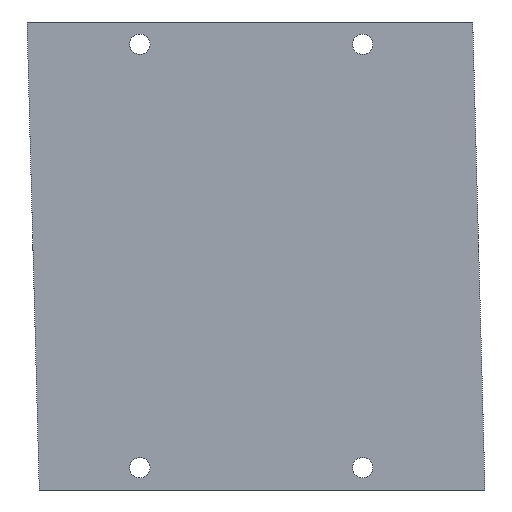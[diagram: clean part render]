
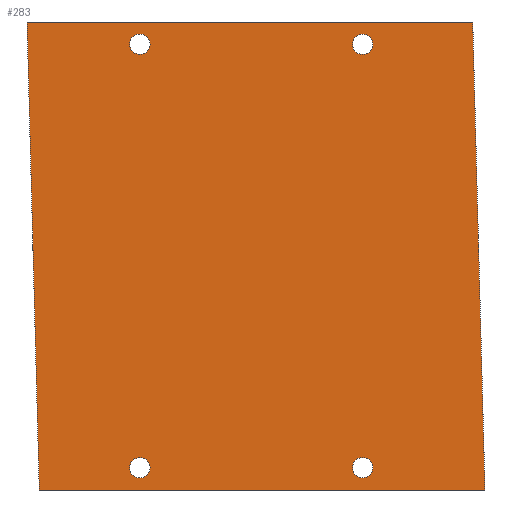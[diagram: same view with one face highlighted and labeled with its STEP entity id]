
A CAD part, front view. The second image highlights one B-rep face of the part: STEP entity #283.
In plain terms, the highlighted planar face has unit normal (0, -1, 0).
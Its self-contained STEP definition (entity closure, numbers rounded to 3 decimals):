
#12 = CARTESIAN_POINT ( 'NONE',  ( 60., 0., 63. ) ) ;
#27 = VERTEX_POINT ( 'NONE', #440 ) ;
#33 = DIRECTION ( 'NONE',  ( 0., 0., 1. ) ) ;
#36 = ORIENTED_EDGE ( 'NONE', *, *, #161, .F. ) ;
#37 = ORIENTED_EDGE ( 'NONE', *, *, #80, .T. ) ;
#41 = FACE_BOUND ( 'NONE', #158, .T. ) ;
#44 = ORIENTED_EDGE ( 'NONE', *, *, #444, .T. ) ;
#46 = AXIS2_PLACEMENT_3D ( 'NONE', #313, #392, #130 ) ;
#54 = EDGE_LOOP ( 'NONE', ( #44, #790 ) ) ;
#67 = DIRECTION ( 'NONE',  ( 0., 1., 0. ) ) ;
#73 = VERTEX_POINT ( 'NONE', #386 ) ;
#78 = CARTESIAN_POINT ( 'NONE',  ( -56.7, 0., -63. ) ) ;
#80 = EDGE_CURVE ( 'NONE', #557, #196, #254, .T. ) ;
#81 = DIRECTION ( 'NONE',  ( 0., 0., -1. ) ) ;
#84 = CIRCLE ( 'NONE', #586, 2.75 ) ;
#106 = AXIS2_PLACEMENT_3D ( 'NONE', #755, #229, #810 ) ;
#121 = EDGE_LOOP ( 'NONE', ( #37, #750 ) ) ;
#130 = DIRECTION ( 'NONE',  ( 0., 0., 1. ) ) ;
#133 = CARTESIAN_POINT ( 'NONE',  ( -29.63, 0., 57. ) ) ;
#158 = EDGE_LOOP ( 'NONE', ( #230, #231 ) ) ;
#161 = EDGE_CURVE ( 'NONE', #791, #712, #651, .T. ) ;
#173 = EDGE_CURVE ( 'NONE', #73, #640, #242, .T. ) ;
#182 = AXIS2_PLACEMENT_3D ( 'NONE', #199, #645, #461 ) ;
#184 = FACE_OUTER_BOUND ( 'NONE', #418, .T. ) ;
#188 = CARTESIAN_POINT ( 'NONE',  ( -29.63, 0., -59.75 ) ) ;
#196 = VERTEX_POINT ( 'NONE', #642 ) ;
#197 = LINE ( 'NONE', #351, #559 ) ;
#199 = CARTESIAN_POINT ( 'NONE',  ( -29.63, 0., -57. ) ) ;
#201 = EDGE_CURVE ( 'NONE', #27, #297, #84, .T. ) ;
#204 = VERTEX_POINT ( 'NONE', #12 ) ;
#206 = AXIS2_PLACEMENT_3D ( 'NONE', #713, #259, #81 ) ;
#207 = CARTESIAN_POINT ( 'NONE',  ( -29.63, 0., -57. ) ) ;
#218 = CARTESIAN_POINT ( 'NONE',  ( 30.37, 0., 59.75 ) ) ;
#228 = EDGE_CURVE ( 'NONE', #744, #368, #294, .T. ) ;
#229 = DIRECTION ( 'NONE',  ( 0., 1., 0. ) ) ;
#230 = ORIENTED_EDGE ( 'NONE', *, *, #740, .T. ) ;
#231 = ORIENTED_EDGE ( 'NONE', *, *, #173, .T. ) ;
#239 = EDGE_CURVE ( 'NONE', #408, #204, #397, .T. ) ;
#242 = CIRCLE ( 'NONE', #532, 2.75 ) ;
#251 = DIRECTION ( 'NONE',  ( 0., 0., 1. ) ) ;
#252 = CARTESIAN_POINT ( 'NONE',  ( -29.63, 0., 57. ) ) ;
#254 = CIRCLE ( 'NONE', #46, 2.75 ) ;
#256 = ORIENTED_EDGE ( 'NONE', *, *, #201, .T. ) ;
#259 = DIRECTION ( 'NONE',  ( 0., -1., 0. ) ) ;
#261 = CARTESIAN_POINT ( 'NONE',  ( 30.37, 0., -57. ) ) ;
#274 = CARTESIAN_POINT ( 'NONE',  ( -29.63, 0., -54.25 ) ) ;
#275 = VECTOR ( 'NONE', #320, 1000. ) ;
#283 = ADVANCED_FACE ( 'NONE', ( #725, #473, #601, #41, #184 ), #647, .T. ) ;
#284 = AXIS2_PLACEMENT_3D ( 'NONE', #207, #406, #33 ) ;
#294 = CIRCLE ( 'NONE', #182, 2.75 ) ;
#297 = VERTEX_POINT ( 'NONE', #777 ) ;
#313 = CARTESIAN_POINT ( 'NONE',  ( 30.37, 0., 57. ) ) ;
#317 = ORIENTED_EDGE ( 'NONE', *, *, #804, .F. ) ;
#320 = DIRECTION ( 'NONE',  ( 1., 0., 0. ) ) ;
#324 = DIRECTION ( 'NONE',  ( 0., 0., 1. ) ) ;
#328 = DIRECTION ( 'NONE',  ( 0., 0., 1. ) ) ;
#335 = DIRECTION ( 'NONE',  ( -1., 0., 0. ) ) ;
#351 = CARTESIAN_POINT ( 'NONE',  ( -60., 0., 63. ) ) ;
#364 = CARTESIAN_POINT ( 'NONE',  ( -29.63, 0., 59.75 ) ) ;
#368 = VERTEX_POINT ( 'NONE', #274 ) ;
#386 = CARTESIAN_POINT ( 'NONE',  ( -29.63, 0., 54.25 ) ) ;
#392 = DIRECTION ( 'NONE',  ( 0., 1., 0. ) ) ;
#397 = LINE ( 'NONE', #453, #275 ) ;
#403 = DIRECTION ( 'NONE',  ( 0., 1., 0. ) ) ;
#406 = DIRECTION ( 'NONE',  ( 0., 1., 0. ) ) ;
#408 = VERTEX_POINT ( 'NONE', #598 ) ;
#418 = EDGE_LOOP ( 'NONE', ( #317, #591, #771, #36 ) ) ;
#429 = EDGE_CURVE ( 'NONE', #196, #557, #606, .T. ) ;
#440 = CARTESIAN_POINT ( 'NONE',  ( 30.37, 0., -59.75 ) ) ;
#444 = EDGE_CURVE ( 'NONE', #368, #744, #792, .T. ) ;
#453 = CARTESIAN_POINT ( 'NONE',  ( 60., 0., 63. ) ) ;
#461 = DIRECTION ( 'NONE',  ( 0., 0., 1. ) ) ;
#467 = DIRECTION ( 'NONE',  ( 0., 0., 1. ) ) ;
#473 = FACE_BOUND ( 'NONE', #121, .T. ) ;
#483 = DIRECTION ( 'NONE',  ( -0.026, 0., 1. ) ) ;
#510 = DIRECTION ( 'NONE',  ( 0., 1., 0. ) ) ;
#518 = EDGE_CURVE ( 'NONE', #712, #408, #197, .T. ) ;
#532 = AXIS2_PLACEMENT_3D ( 'NONE', #252, #658, #324 ) ;
#538 = CARTESIAN_POINT ( 'NONE',  ( 30.37, 0., 57. ) ) ;
#547 = VECTOR ( 'NONE', #335, 1000. ) ;
#548 = ORIENTED_EDGE ( 'NONE', *, *, #649, .T. ) ;
#557 = VERTEX_POINT ( 'NONE', #218 ) ;
#559 = VECTOR ( 'NONE', #483, 1000. ) ;
#560 = CIRCLE ( 'NONE', #106, 2.75 ) ;
#567 = CARTESIAN_POINT ( 'NONE',  ( 63.3, 0., -63. ) ) ;
#570 = CARTESIAN_POINT ( 'NONE',  ( 63.3, 0., -63. ) ) ;
#578 = AXIS2_PLACEMENT_3D ( 'NONE', #133, #67, #251 ) ;
#586 = AXIS2_PLACEMENT_3D ( 'NONE', #261, #510, #328 ) ;
#591 = ORIENTED_EDGE ( 'NONE', *, *, #239, .F. ) ;
#598 = CARTESIAN_POINT ( 'NONE',  ( -60., 0., 63. ) ) ;
#601 = FACE_BOUND ( 'NONE', #54, .T. ) ;
#606 = CIRCLE ( 'NONE', #761, 2.75 ) ;
#640 = VERTEX_POINT ( 'NONE', #364 ) ;
#642 = CARTESIAN_POINT ( 'NONE',  ( 30.37, 0., 54.25 ) ) ;
#645 = DIRECTION ( 'NONE',  ( 0., 1., 0. ) ) ;
#647 = PLANE ( 'NONE',  #206 ) ;
#649 = EDGE_CURVE ( 'NONE', #297, #27, #560, .T. ) ;
#651 = LINE ( 'NONE', #78, #547 ) ;
#658 = DIRECTION ( 'NONE',  ( 0., 1., 0. ) ) ;
#682 = LINE ( 'NONE', #567, #778 ) ;
#695 = EDGE_LOOP ( 'NONE', ( #548, #256 ) ) ;
#712 = VERTEX_POINT ( 'NONE', #758 ) ;
#713 = CARTESIAN_POINT ( 'NONE',  ( 0., 0., 0. ) ) ;
#725 = FACE_BOUND ( 'NONE', #695, .T. ) ;
#740 = EDGE_CURVE ( 'NONE', #640, #73, #783, .T. ) ;
#744 = VERTEX_POINT ( 'NONE', #188 ) ;
#750 = ORIENTED_EDGE ( 'NONE', *, *, #429, .T. ) ;
#755 = CARTESIAN_POINT ( 'NONE',  ( 30.37, 0., -57. ) ) ;
#758 = CARTESIAN_POINT ( 'NONE',  ( -56.7, 0., -63. ) ) ;
#761 = AXIS2_PLACEMENT_3D ( 'NONE', #538, #403, #467 ) ;
#763 = DIRECTION ( 'NONE',  ( 0.026, 0., -1. ) ) ;
#771 = ORIENTED_EDGE ( 'NONE', *, *, #518, .F. ) ;
#777 = CARTESIAN_POINT ( 'NONE',  ( 30.37, 0., -54.25 ) ) ;
#778 = VECTOR ( 'NONE', #763, 1000. ) ;
#783 = CIRCLE ( 'NONE', #578, 2.75 ) ;
#790 = ORIENTED_EDGE ( 'NONE', *, *, #228, .T. ) ;
#791 = VERTEX_POINT ( 'NONE', #570 ) ;
#792 = CIRCLE ( 'NONE', #284, 2.75 ) ;
#804 = EDGE_CURVE ( 'NONE', #204, #791, #682, .T. ) ;
#810 = DIRECTION ( 'NONE',  ( 0., 0., 1. ) ) ;
